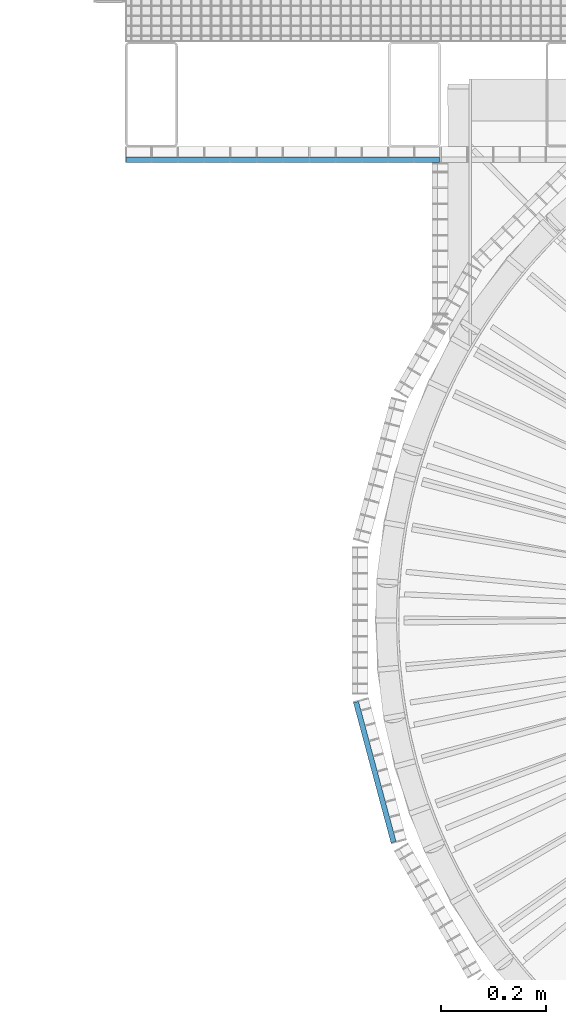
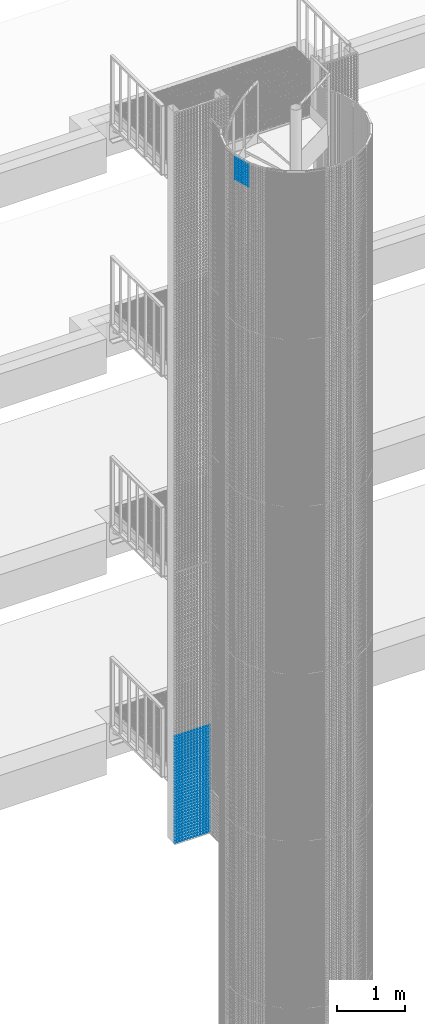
# One storey, part 323 of 1148: 53 beams, 40 elements without a shape of their own.
"""IFC2X3 building model written with IfcOpenShell, lengths in millimetres."""

from ifc_helpers import new_model, si_unit, frame, origin_with_axes, origin_2d_with_axis, place, context, subcontext, project, spatial, rectangle, extrude, material, type_object, element, aggregate, save


model = new_model("IFC2X3")

# Units and contexts
model_context = context("Model", 3, precision=1e-05, world=origin_with_axes())
body_context = subcontext(model_context, "Body", "Model", "MODEL_VIEW")
ifc_project = project(units=[si_unit("LENGTHUNIT", "METRE", prefix="MILLI"), si_unit("AREAUNIT", "SQUARE_METRE"), si_unit("VOLUMEUNIT", "CUBIC_METRE"), si_unit("MASSUNIT", "GRAM", prefix="KILO"), si_unit("TIMEUNIT", "SECOND"), si_unit("PLANEANGLEUNIT", "RADIAN"), si_unit("SOLIDANGLEUNIT", "STERADIAN"), si_unit("THERMODYNAMICTEMPERATUREUNIT", "DEGREE_CELSIUS"), si_unit("LUMINOUSINTENSITYUNIT", "LUMEN")], contexts=[model_context])

# Site, building, storey
site_placement = place(None, origin_with_axes())
site = spatial("IfcSite", under=ifc_project, at=site_placement, Name="Undefined", CompositionType="ELEMENT")
building_placement = place(site_placement, origin_with_axes())
building = spatial("IfcBuilding", under=site, at=building_placement, Name="Undefined", CompositionType="ELEMENT")
storey_placement = place(building_placement, origin_with_axes())
storey = spatial("IfcBuildingStorey", under=building, at=storey_placement, Name="Undefined", CompositionType="ELEMENT", Elevation=0.0)

# Assembly, beams
assembly_1_placement = place(storey_placement, origin_with_axes())
assembly_1 = element("IfcElementAssembly", 1, at=assembly_1_placement, inside=storey, Name="BORDURE", AssemblyPlace="NOTDEFINED", PredefinedType="NOTDEFINED")
ifc_material = material(Name="STEEL/S235JR")
beam_type = type_object("IfcBeamType", Name="PL2*10", PredefinedType="NOTDEFINED")
beam_1_placement = place(assembly_1_placement, frame((20560.1769047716, -421.483733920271, 17970.0), z_axis=(-0.965925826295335, -0.258819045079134, 0.0), x_axis=(-0.258819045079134, 0.965925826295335, 0.0)))
beam_1 = element("IfcBeam", 2, at=beam_1_placement, type_object=beam_type, material=ifc_material, Name="ENTRETOISE", context=body_context, shape_type="SweptSolid", body=[
    extrude(rectangle(XDim=2.0, YDim=10.0, at=origin_2d_with_axis()), frame((275.999999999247, 9.09494701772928e-13, 1.53210777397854e-14), z_axis=(-1.0, 0.0, 0.0), x_axis=(0.0, -1.0, 0.0)), (0.0, 0.0, 1.0), 276.0),
])
beam_2_placement = place(assembly_1_placement, frame((20560.1769047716, -421.483733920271, 17940.0), z_axis=(-0.965925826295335, -0.258819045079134, 0.0), x_axis=(-0.258819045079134, 0.965925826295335, 0.0)))
beam_2 = element("IfcBeam", 3, at=beam_2_placement, type_object=beam_type, material=ifc_material, Name="ENTRETOISE", context=body_context, shape_type="SweptSolid", body=[
    extrude(rectangle(XDim=2.0, YDim=10.0, at=origin_2d_with_axis()), frame((275.999999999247, 9.09494701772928e-13, 1.53210777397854e-14), z_axis=(-1.0, 0.0, 0.0), x_axis=(0.0, -1.0, 0.0)), (0.0, 0.0, 1.0), 276.0),
])
beam_3_placement = place(assembly_1_placement, frame((20560.1769047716, -421.483733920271, 17910.0), z_axis=(-0.965925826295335, -0.258819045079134, 0.0), x_axis=(-0.258819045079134, 0.965925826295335, 0.0)))
beam_3 = element("IfcBeam", 4, at=beam_3_placement, type_object=beam_type, material=ifc_material, Name="ENTRETOISE", context=body_context, shape_type="SweptSolid", body=[
    extrude(rectangle(XDim=2.0, YDim=10.0, at=origin_2d_with_axis()), frame((275.999999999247, 9.09494701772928e-13, 1.53210777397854e-14), z_axis=(-1.0, 0.0, 0.0), x_axis=(0.0, -1.0, 0.0)), (0.0, 0.0, 1.0), 276.0),
])
beam_4_placement = place(assembly_1_placement, frame((20560.1769047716, -421.483733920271, 17880.0), z_axis=(-0.965925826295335, -0.258819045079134, 0.0), x_axis=(-0.258819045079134, 0.965925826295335, 0.0)))
beam_4 = element("IfcBeam", 5, at=beam_4_placement, type_object=beam_type, material=ifc_material, Name="ENTRETOISE", context=body_context, shape_type="SweptSolid", body=[
    extrude(rectangle(XDim=2.0, YDim=10.0, at=origin_2d_with_axis()), frame((275.999999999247, 9.09494701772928e-13, 1.53210777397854e-14), z_axis=(-1.0, 0.0, 0.0), x_axis=(0.0, -1.0, 0.0)), (0.0, 0.0, 1.0), 276.0),
])
beam_5_placement = place(assembly_1_placement, frame((20560.1769047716, -421.483733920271, 17850.0), z_axis=(-0.965925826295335, -0.258819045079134, 0.0), x_axis=(-0.258819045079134, 0.965925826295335, 0.0)))
beam_5 = element("IfcBeam", 6, at=beam_5_placement, type_object=beam_type, material=ifc_material, Name="ENTRETOISE", context=body_context, shape_type="SweptSolid", body=[
    extrude(rectangle(XDim=2.0, YDim=10.0, at=origin_2d_with_axis()), frame((275.999999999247, 9.09494701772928e-13, 1.53210777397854e-14), z_axis=(-1.0, 0.0, 0.0), x_axis=(0.0, -1.0, 0.0)), (0.0, 0.0, 1.0), 276.0),
])
beam_6_placement = place(assembly_1_placement, frame((20560.1769047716, -421.483733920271, 17820.0), z_axis=(-0.965925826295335, -0.258819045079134, 0.0), x_axis=(-0.258819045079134, 0.965925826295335, 0.0)))
beam_6 = element("IfcBeam", 7, at=beam_6_placement, type_object=beam_type, material=ifc_material, Name="ENTRETOISE", context=body_context, shape_type="SweptSolid", body=[
    extrude(rectangle(XDim=2.0, YDim=10.0, at=origin_2d_with_axis()), frame((275.999999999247, 9.09494701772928e-13, 1.53210777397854e-14), z_axis=(-1.0, 0.0, 0.0), x_axis=(0.0, -1.0, 0.0)), (0.0, 0.0, 1.0), 276.0),
])
beam_7_placement = place(assembly_1_placement, frame((20560.1769047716, -421.483733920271, 17790.0), z_axis=(-0.965925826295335, -0.258819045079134, 0.0), x_axis=(-0.258819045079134, 0.965925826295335, 0.0)))
beam_7 = element("IfcBeam", 8, at=beam_7_placement, type_object=beam_type, material=ifc_material, Name="ENTRETOISE", context=body_context, shape_type="SweptSolid", body=[
    extrude(rectangle(XDim=2.0, YDim=10.0, at=origin_2d_with_axis()), frame((275.999999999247, 9.09494701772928e-13, 1.53210777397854e-14), z_axis=(-1.0, 0.0, 0.0), x_axis=(0.0, -1.0, 0.0)), (0.0, 0.0, 1.0), 276.0),
])
beam_8_placement = place(assembly_1_placement, frame((20560.1769047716, -421.483733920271, 17760.0), z_axis=(-0.965925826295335, -0.258819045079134, 0.0), x_axis=(-0.258819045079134, 0.965925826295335, 0.0)))
beam_8 = element("IfcBeam", 9, at=beam_8_placement, type_object=beam_type, material=ifc_material, Name="ENTRETOISE", context=body_context, shape_type="SweptSolid", body=[
    extrude(rectangle(XDim=2.0, YDim=10.0, at=origin_2d_with_axis()), frame((275.999999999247, 9.09494701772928e-13, 1.53210777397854e-14), z_axis=(-1.0, 0.0, 0.0), x_axis=(0.0, -1.0, 0.0)), (0.0, 0.0, 1.0), 276.0),
])
beam_9_placement = place(assembly_1_placement, frame((20560.1769047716, -421.48373392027, 17730.0), z_axis=(-0.965925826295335, -0.258819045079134, 0.0), x_axis=(-0.258819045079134, 0.965925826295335, 0.0)))
beam_9 = element("IfcBeam", 10, at=beam_9_placement, type_object=beam_type, material=ifc_material, Name="ENTRETOISE", context=body_context, shape_type="SweptSolid", body=[
    extrude(rectangle(XDim=2.0, YDim=10.0, at=origin_2d_with_axis()), frame((275.999999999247, 9.09494701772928e-13, 1.53210777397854e-14), z_axis=(-1.0, 0.0, 0.0), x_axis=(0.0, -1.0, 0.0)), (0.0, 0.0, 1.0), 276.0),
])
beam_10_placement = place(assembly_1_placement, frame((20560.1769047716, -421.48373392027, 17700.0), z_axis=(-0.965925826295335, -0.258819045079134, 0.0), x_axis=(-0.258819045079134, 0.965925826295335, 0.0)))
beam_10 = element("IfcBeam", 11, at=beam_10_placement, type_object=beam_type, material=ifc_material, Name="ENTRETOISE", context=body_context, shape_type="SweptSolid", body=[
    extrude(rectangle(XDim=2.0, YDim=10.0, at=origin_2d_with_axis()), frame((275.999999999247, 9.09494701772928e-13, 1.53210777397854e-14), z_axis=(-1.0, 0.0, 0.0), x_axis=(0.0, -1.0, 0.0)), (0.0, 0.0, 1.0), 276.0),
])
beam_11_placement = place(assembly_1_placement, frame((20560.1769047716, -421.48373392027, 17670.0), z_axis=(-0.965925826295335, -0.258819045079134, 0.0), x_axis=(-0.258819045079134, 0.965925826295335, 0.0)))
beam_11 = element("IfcBeam", 12, at=beam_11_placement, type_object=beam_type, material=ifc_material, Name="ENTRETOISE", context=body_context, shape_type="SweptSolid", body=[
    extrude(rectangle(XDim=2.0, YDim=10.0, at=origin_2d_with_axis()), frame((275.999999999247, 9.09494701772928e-13, 1.53210777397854e-14), z_axis=(-1.0, 0.0, 0.0), x_axis=(0.0, -1.0, 0.0)), (0.0, 0.0, 1.0), 276.0),
])
beam_12_placement = place(assembly_1_placement, frame((20560.1769047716, -421.48373392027, 17640.0), z_axis=(-0.965925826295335, -0.258819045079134, 0.0), x_axis=(-0.258819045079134, 0.965925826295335, 0.0)))
beam_12 = element("IfcBeam", 13, at=beam_12_placement, type_object=beam_type, material=ifc_material, Name="ENTRETOISE", context=body_context, shape_type="SweptSolid", body=[
    extrude(rectangle(XDim=2.0, YDim=10.0, at=origin_2d_with_axis()), frame((275.999999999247, 9.09494701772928e-13, 1.53210777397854e-14), z_axis=(-1.0, 0.0, 0.0), x_axis=(0.0, -1.0, 0.0)), (0.0, 0.0, 1.0), 276.0),
])
beam_13_placement = place(assembly_1_placement, frame((20560.1769047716, -421.48373392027, 17610.0), z_axis=(-0.965925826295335, -0.258819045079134, 0.0), x_axis=(-0.258819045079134, 0.965925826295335, 0.0)))
beam_13 = element("IfcBeam", 14, at=beam_13_placement, type_object=beam_type, material=ifc_material, Name="ENTRETOISE", context=body_context, shape_type="SweptSolid", body=[
    extrude(rectangle(XDim=2.0, YDim=10.0, at=origin_2d_with_axis()), frame((275.999999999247, 9.09494701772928e-13, 1.53210777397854e-14), z_axis=(-1.0, 0.0, 0.0), x_axis=(0.0, -1.0, 0.0)), (0.0, 0.0, 1.0), 276.0),
])
beam_14_placement = place(assembly_1_placement, frame((20560.1769047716, -421.48373392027, 17580.0), z_axis=(-0.965925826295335, -0.258819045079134, 0.0), x_axis=(-0.258819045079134, 0.965925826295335, 0.0)))
beam_14 = element("IfcBeam", 15, at=beam_14_placement, type_object=beam_type, material=ifc_material, Name="ENTRETOISE", context=body_context, shape_type="SweptSolid", body=[
    extrude(rectangle(XDim=2.0, YDim=10.0, at=origin_2d_with_axis()), frame((275.999999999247, 9.09494701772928e-13, 1.53210777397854e-14), z_axis=(-1.0, 0.0, 0.0), x_axis=(0.0, -1.0, 0.0)), (0.0, 0.0, 1.0), 276.0),
])
aggregate(assembly_1, [beam_1, beam_2, beam_3, beam_4, beam_5, beam_6, beam_7, beam_8, beam_9, beam_10, beam_11, beam_12, beam_13, beam_14])

# Assembly, beam
assembly_2_placement = place(storey_placement, origin_with_axes())
assembly_2 = element("IfcElementAssembly", 16, at=assembly_2_placement, inside=storey, AssemblyPlace="NOTDEFINED", PredefinedType="NOTDEFINED")
beam_15_placement = place(assembly_2_placement, frame((20647.930410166, 876.014689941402, 7104.998), z_axis=(0.0, -1.0, 0.0), x_axis=(-1.0, 0.0, 0.0)))
beam_15 = element("IfcBeam", 17, at=beam_15_placement, type_object=beam_type, material=ifc_material, Name="ENTRETOISE", context=body_context, shape_type="SweptSolid", body=[
    extrude(rectangle(XDim=2.0, YDim=10.0, at=origin_2d_with_axis()), frame((596.0, 0.0, 0.0), z_axis=(-1.0, 0.0, 0.0), x_axis=(0.0, -1.0, 0.0)), (0.0, 0.0, 1.0), 596.0),
])
aggregate(assembly_2, [beam_15])

assembly_3_placement = place(storey_placement, origin_with_axes())
assembly_3 = element("IfcElementAssembly", 18, at=assembly_3_placement, inside=storey, AssemblyPlace="NOTDEFINED", PredefinedType="NOTDEFINED")
beam_16_placement = place(assembly_3_placement, frame((20647.930410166, 876.014689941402, 7054.998), z_axis=(0.0, -1.0, 0.0), x_axis=(-1.0, 0.0, 0.0)))
beam_16 = element("IfcBeam", 19, at=beam_16_placement, type_object=beam_type, material=ifc_material, Name="ENTRETOISE", context=body_context, shape_type="SweptSolid", body=[
    extrude(rectangle(XDim=2.0, YDim=10.0, at=origin_2d_with_axis()), frame((596.0, 0.0, 0.0), z_axis=(-1.0, 0.0, 0.0), x_axis=(0.0, -1.0, 0.0)), (0.0, 0.0, 1.0), 596.0),
])
aggregate(assembly_3, [beam_16])

assembly_4_placement = place(storey_placement, origin_with_axes())
assembly_4 = element("IfcElementAssembly", 20, at=assembly_4_placement, inside=storey, AssemblyPlace="NOTDEFINED", PredefinedType="NOTDEFINED")
beam_17_placement = place(assembly_4_placement, frame((20647.930410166, 876.014689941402, 7004.998), z_axis=(0.0, -1.0, 0.0), x_axis=(-1.0, 0.0, 0.0)))
beam_17 = element("IfcBeam", 21, at=beam_17_placement, type_object=beam_type, material=ifc_material, Name="ENTRETOISE", context=body_context, shape_type="SweptSolid", body=[
    extrude(rectangle(XDim=2.0, YDim=10.0, at=origin_2d_with_axis()), frame((596.0, 0.0, 0.0), z_axis=(-1.0, 0.0, 0.0), x_axis=(0.0, -1.0, 0.0)), (0.0, 0.0, 1.0), 596.0),
])
aggregate(assembly_4, [beam_17])

assembly_5_placement = place(storey_placement, origin_with_axes())
assembly_5 = element("IfcElementAssembly", 22, at=assembly_5_placement, inside=storey, AssemblyPlace="NOTDEFINED", PredefinedType="NOTDEFINED")
beam_18_placement = place(assembly_5_placement, frame((20647.930410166, 876.014689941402, 6954.998), z_axis=(0.0, -1.0, 0.0), x_axis=(-1.0, 0.0, 0.0)))
beam_18 = element("IfcBeam", 23, at=beam_18_placement, type_object=beam_type, material=ifc_material, Name="ENTRETOISE", context=body_context, shape_type="SweptSolid", body=[
    extrude(rectangle(XDim=2.0, YDim=10.0, at=origin_2d_with_axis()), frame((596.0, 0.0, 0.0), z_axis=(-1.0, 0.0, 0.0), x_axis=(0.0, -1.0, 0.0)), (0.0, 0.0, 1.0), 596.0),
])
aggregate(assembly_5, [beam_18])

assembly_6_placement = place(storey_placement, origin_with_axes())
assembly_6 = element("IfcElementAssembly", 24, at=assembly_6_placement, inside=storey, AssemblyPlace="NOTDEFINED", PredefinedType="NOTDEFINED")
beam_19_placement = place(assembly_6_placement, frame((20647.930410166, 876.014689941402, 6904.998), z_axis=(0.0, -1.0, 0.0), x_axis=(-1.0, 0.0, 0.0)))
beam_19 = element("IfcBeam", 25, at=beam_19_placement, type_object=beam_type, material=ifc_material, Name="ENTRETOISE", context=body_context, shape_type="SweptSolid", body=[
    extrude(rectangle(XDim=2.0, YDim=10.0, at=origin_2d_with_axis()), frame((596.0, 0.0, 0.0), z_axis=(-1.0, 0.0, 0.0), x_axis=(0.0, -1.0, 0.0)), (0.0, 0.0, 1.0), 596.0),
])
aggregate(assembly_6, [beam_19])

assembly_7_placement = place(storey_placement, origin_with_axes())
assembly_7 = element("IfcElementAssembly", 26, at=assembly_7_placement, inside=storey, AssemblyPlace="NOTDEFINED", PredefinedType="NOTDEFINED")
beam_20_placement = place(assembly_7_placement, frame((20647.930410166, 876.014689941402, 6854.998), z_axis=(0.0, -1.0, 0.0), x_axis=(-1.0, 0.0, 0.0)))
beam_20 = element("IfcBeam", 27, at=beam_20_placement, type_object=beam_type, material=ifc_material, Name="ENTRETOISE", context=body_context, shape_type="SweptSolid", body=[
    extrude(rectangle(XDim=2.0, YDim=10.0, at=origin_2d_with_axis()), frame((596.0, 0.0, 0.0), z_axis=(-1.0, 0.0, 0.0), x_axis=(0.0, -1.0, 0.0)), (0.0, 0.0, 1.0), 596.0),
])
aggregate(assembly_7, [beam_20])

assembly_8_placement = place(storey_placement, origin_with_axes())
assembly_8 = element("IfcElementAssembly", 28, at=assembly_8_placement, inside=storey, AssemblyPlace="NOTDEFINED", PredefinedType="NOTDEFINED")
beam_21_placement = place(assembly_8_placement, frame((20647.930410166, 876.014689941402, 6804.998), z_axis=(0.0, -1.0, 0.0), x_axis=(-1.0, 0.0, 0.0)))
beam_21 = element("IfcBeam", 29, at=beam_21_placement, type_object=beam_type, material=ifc_material, Name="ENTRETOISE", context=body_context, shape_type="SweptSolid", body=[
    extrude(rectangle(XDim=2.0, YDim=10.0, at=origin_2d_with_axis()), frame((596.0, 0.0, 0.0), z_axis=(-1.0, 0.0, 0.0), x_axis=(0.0, -1.0, 0.0)), (0.0, 0.0, 1.0), 596.0),
])
aggregate(assembly_8, [beam_21])

assembly_9_placement = place(storey_placement, origin_with_axes())
assembly_9 = element("IfcElementAssembly", 30, at=assembly_9_placement, inside=storey, AssemblyPlace="NOTDEFINED", PredefinedType="NOTDEFINED")
beam_22_placement = place(assembly_9_placement, frame((20647.930410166, 876.014689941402, 6754.998), z_axis=(0.0, -1.0, 0.0), x_axis=(-1.0, 0.0, 0.0)))
beam_22 = element("IfcBeam", 31, at=beam_22_placement, type_object=beam_type, material=ifc_material, Name="ENTRETOISE", context=body_context, shape_type="SweptSolid", body=[
    extrude(rectangle(XDim=2.0, YDim=10.0, at=origin_2d_with_axis()), frame((596.0, 0.0, 0.0), z_axis=(-1.0, 0.0, 0.0), x_axis=(0.0, -1.0, 0.0)), (0.0, 0.0, 1.0), 596.0),
])
aggregate(assembly_9, [beam_22])

assembly_10_placement = place(storey_placement, origin_with_axes())
assembly_10 = element("IfcElementAssembly", 32, at=assembly_10_placement, inside=storey, AssemblyPlace="NOTDEFINED", PredefinedType="NOTDEFINED")
beam_23_placement = place(assembly_10_placement, frame((20647.930410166, 876.014689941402, 6704.998), z_axis=(0.0, -1.0, 0.0), x_axis=(-1.0, 0.0, 0.0)))
beam_23 = element("IfcBeam", 33, at=beam_23_placement, type_object=beam_type, material=ifc_material, Name="ENTRETOISE", context=body_context, shape_type="SweptSolid", body=[
    extrude(rectangle(XDim=2.0, YDim=10.0, at=origin_2d_with_axis()), frame((596.0, 0.0, 0.0), z_axis=(-1.0, 0.0, 0.0), x_axis=(0.0, -1.0, 0.0)), (0.0, 0.0, 1.0), 596.0),
])
aggregate(assembly_10, [beam_23])

assembly_11_placement = place(storey_placement, origin_with_axes())
assembly_11 = element("IfcElementAssembly", 34, at=assembly_11_placement, inside=storey, AssemblyPlace="NOTDEFINED", PredefinedType="NOTDEFINED")
beam_24_placement = place(assembly_11_placement, frame((20647.930410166, 876.014689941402, 6654.998), z_axis=(0.0, -1.0, 0.0), x_axis=(-1.0, 0.0, 0.0)))
beam_24 = element("IfcBeam", 35, at=beam_24_placement, type_object=beam_type, material=ifc_material, Name="ENTRETOISE", context=body_context, shape_type="SweptSolid", body=[
    extrude(rectangle(XDim=2.0, YDim=10.0, at=origin_2d_with_axis()), frame((596.0, 0.0, 0.0), z_axis=(-1.0, 0.0, 0.0), x_axis=(0.0, -1.0, 0.0)), (0.0, 0.0, 1.0), 596.0),
])
aggregate(assembly_11, [beam_24])

assembly_12_placement = place(storey_placement, origin_with_axes())
assembly_12 = element("IfcElementAssembly", 36, at=assembly_12_placement, inside=storey, AssemblyPlace="NOTDEFINED", PredefinedType="NOTDEFINED")
beam_25_placement = place(assembly_12_placement, frame((20647.930410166, 876.014689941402, 6604.998), z_axis=(0.0, -1.0, 0.0), x_axis=(-1.0, 0.0, 0.0)))
beam_25 = element("IfcBeam", 37, at=beam_25_placement, type_object=beam_type, material=ifc_material, Name="ENTRETOISE", context=body_context, shape_type="SweptSolid", body=[
    extrude(rectangle(XDim=2.0, YDim=10.0, at=origin_2d_with_axis()), frame((596.0, 0.0, 0.0), z_axis=(-1.0, 0.0, 0.0), x_axis=(0.0, -1.0, 0.0)), (0.0, 0.0, 1.0), 596.0),
])
aggregate(assembly_12, [beam_25])

assembly_13_placement = place(storey_placement, origin_with_axes())
assembly_13 = element("IfcElementAssembly", 38, at=assembly_13_placement, inside=storey, AssemblyPlace="NOTDEFINED", PredefinedType="NOTDEFINED")
beam_26_placement = place(assembly_13_placement, frame((20647.930410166, 876.014689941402, 6554.998), z_axis=(0.0, -1.0, 0.0), x_axis=(-1.0, 0.0, 0.0)))
beam_26 = element("IfcBeam", 39, at=beam_26_placement, type_object=beam_type, material=ifc_material, Name="ENTRETOISE", context=body_context, shape_type="SweptSolid", body=[
    extrude(rectangle(XDim=2.0, YDim=10.0, at=origin_2d_with_axis()), frame((596.0, 0.0, 0.0), z_axis=(-1.0, 0.0, 0.0), x_axis=(0.0, -1.0, 0.0)), (0.0, 0.0, 1.0), 596.0),
])
aggregate(assembly_13, [beam_26])

assembly_14_placement = place(storey_placement, origin_with_axes())
assembly_14 = element("IfcElementAssembly", 40, at=assembly_14_placement, inside=storey, AssemblyPlace="NOTDEFINED", PredefinedType="NOTDEFINED")
beam_27_placement = place(assembly_14_placement, frame((20647.930410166, 876.014689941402, 6504.998), z_axis=(0.0, -1.0, 0.0), x_axis=(-1.0, 0.0, 0.0)))
beam_27 = element("IfcBeam", 41, at=beam_27_placement, type_object=beam_type, material=ifc_material, Name="ENTRETOISE", context=body_context, shape_type="SweptSolid", body=[
    extrude(rectangle(XDim=2.0, YDim=10.0, at=origin_2d_with_axis()), frame((596.0, 0.0, 0.0), z_axis=(-1.0, 0.0, 0.0), x_axis=(0.0, -1.0, 0.0)), (0.0, 0.0, 1.0), 596.0),
])
aggregate(assembly_14, [beam_27])

assembly_15_placement = place(storey_placement, origin_with_axes())
assembly_15 = element("IfcElementAssembly", 42, at=assembly_15_placement, inside=storey, AssemblyPlace="NOTDEFINED", PredefinedType="NOTDEFINED")
beam_28_placement = place(assembly_15_placement, frame((20647.930410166, 876.014689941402, 6454.998), z_axis=(0.0, -1.0, 0.0), x_axis=(-1.0, 0.0, 0.0)))
beam_28 = element("IfcBeam", 43, at=beam_28_placement, type_object=beam_type, material=ifc_material, Name="ENTRETOISE", context=body_context, shape_type="SweptSolid", body=[
    extrude(rectangle(XDim=2.0, YDim=10.0, at=origin_2d_with_axis()), frame((596.0, 0.0, 0.0), z_axis=(-1.0, 0.0, 0.0), x_axis=(0.0, -1.0, 0.0)), (0.0, 0.0, 1.0), 596.0),
])
aggregate(assembly_15, [beam_28])

assembly_16_placement = place(storey_placement, origin_with_axes())
assembly_16 = element("IfcElementAssembly", 44, at=assembly_16_placement, inside=storey, AssemblyPlace="NOTDEFINED", PredefinedType="NOTDEFINED")
beam_29_placement = place(assembly_16_placement, frame((20647.930410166, 876.014689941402, 6404.998), z_axis=(0.0, -1.0, 0.0), x_axis=(-1.0, 0.0, 0.0)))
beam_29 = element("IfcBeam", 45, at=beam_29_placement, type_object=beam_type, material=ifc_material, Name="ENTRETOISE", context=body_context, shape_type="SweptSolid", body=[
    extrude(rectangle(XDim=2.0, YDim=10.0, at=origin_2d_with_axis()), frame((596.0, 0.0, 0.0), z_axis=(-1.0, 0.0, 0.0), x_axis=(0.0, -1.0, 0.0)), (0.0, 0.0, 1.0), 596.0),
])
aggregate(assembly_16, [beam_29])

assembly_17_placement = place(storey_placement, origin_with_axes())
assembly_17 = element("IfcElementAssembly", 46, at=assembly_17_placement, inside=storey, AssemblyPlace="NOTDEFINED", PredefinedType="NOTDEFINED")
beam_30_placement = place(assembly_17_placement, frame((20647.930410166, 876.014689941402, 6354.998), z_axis=(0.0, -1.0, 0.0), x_axis=(-1.0, 0.0, 0.0)))
beam_30 = element("IfcBeam", 47, at=beam_30_placement, type_object=beam_type, material=ifc_material, Name="ENTRETOISE", context=body_context, shape_type="SweptSolid", body=[
    extrude(rectangle(XDim=2.0, YDim=10.0, at=origin_2d_with_axis()), frame((596.0, 0.0, 0.0), z_axis=(-1.0, 0.0, 0.0), x_axis=(0.0, -1.0, 0.0)), (0.0, 0.0, 1.0), 596.0),
])
aggregate(assembly_17, [beam_30])

assembly_18_placement = place(storey_placement, origin_with_axes())
assembly_18 = element("IfcElementAssembly", 48, at=assembly_18_placement, inside=storey, AssemblyPlace="NOTDEFINED", PredefinedType="NOTDEFINED")
beam_31_placement = place(assembly_18_placement, frame((20647.930410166, 876.014689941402, 6304.998), z_axis=(0.0, -1.0, 0.0), x_axis=(-1.0, 0.0, 0.0)))
beam_31 = element("IfcBeam", 49, at=beam_31_placement, type_object=beam_type, material=ifc_material, Name="ENTRETOISE", context=body_context, shape_type="SweptSolid", body=[
    extrude(rectangle(XDim=2.0, YDim=10.0, at=origin_2d_with_axis()), frame((596.0, 0.0, 0.0), z_axis=(-1.0, 0.0, 0.0), x_axis=(0.0, -1.0, 0.0)), (0.0, 0.0, 1.0), 596.0),
])
aggregate(assembly_18, [beam_31])

assembly_19_placement = place(storey_placement, origin_with_axes())
assembly_19 = element("IfcElementAssembly", 50, at=assembly_19_placement, inside=storey, AssemblyPlace="NOTDEFINED", PredefinedType="NOTDEFINED")
beam_32_placement = place(assembly_19_placement, frame((20647.930410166, 876.014689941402, 6254.998), z_axis=(0.0, -1.0, 0.0), x_axis=(-1.0, 0.0, 0.0)))
beam_32 = element("IfcBeam", 51, at=beam_32_placement, type_object=beam_type, material=ifc_material, Name="ENTRETOISE", context=body_context, shape_type="SweptSolid", body=[
    extrude(rectangle(XDim=2.0, YDim=10.0, at=origin_2d_with_axis()), frame((596.0, 0.0, 0.0), z_axis=(-1.0, 0.0, 0.0), x_axis=(0.0, -1.0, 0.0)), (0.0, 0.0, 1.0), 596.0),
])
aggregate(assembly_19, [beam_32])

assembly_20_placement = place(storey_placement, origin_with_axes())
assembly_20 = element("IfcElementAssembly", 52, at=assembly_20_placement, inside=storey, AssemblyPlace="NOTDEFINED", PredefinedType="NOTDEFINED")
beam_33_placement = place(assembly_20_placement, frame((20647.930410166, 876.014689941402, 6204.998), z_axis=(0.0, -1.0, 0.0), x_axis=(-1.0, 0.0, 0.0)))
beam_33 = element("IfcBeam", 53, at=beam_33_placement, type_object=beam_type, material=ifc_material, Name="ENTRETOISE", context=body_context, shape_type="SweptSolid", body=[
    extrude(rectangle(XDim=2.0, YDim=10.0, at=origin_2d_with_axis()), frame((596.0, 0.0, 0.0), z_axis=(-1.0, 0.0, 0.0), x_axis=(0.0, -1.0, 0.0)), (0.0, 0.0, 1.0), 596.0),
])
aggregate(assembly_20, [beam_33])

assembly_21_placement = place(storey_placement, origin_with_axes())
assembly_21 = element("IfcElementAssembly", 54, at=assembly_21_placement, inside=storey, AssemblyPlace="NOTDEFINED", PredefinedType="NOTDEFINED")
beam_34_placement = place(assembly_21_placement, frame((20647.930410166, 876.014689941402, 6154.998), z_axis=(0.0, -1.0, 0.0), x_axis=(-1.0, 0.0, 0.0)))
beam_34 = element("IfcBeam", 55, at=beam_34_placement, type_object=beam_type, material=ifc_material, Name="ENTRETOISE", context=body_context, shape_type="SweptSolid", body=[
    extrude(rectangle(XDim=2.0, YDim=10.0, at=origin_2d_with_axis()), frame((596.0, 0.0, 0.0), z_axis=(-1.0, 0.0, 0.0), x_axis=(0.0, -1.0, 0.0)), (0.0, 0.0, 1.0), 596.0),
])
aggregate(assembly_21, [beam_34])

assembly_22_placement = place(storey_placement, origin_with_axes())
assembly_22 = element("IfcElementAssembly", 56, at=assembly_22_placement, inside=storey, AssemblyPlace="NOTDEFINED", PredefinedType="NOTDEFINED")
beam_35_placement = place(assembly_22_placement, frame((20647.930410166, 876.014689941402, 6104.998), z_axis=(0.0, -1.0, 0.0), x_axis=(-1.0, 0.0, 0.0)))
beam_35 = element("IfcBeam", 57, at=beam_35_placement, type_object=beam_type, material=ifc_material, Name="ENTRETOISE", context=body_context, shape_type="SweptSolid", body=[
    extrude(rectangle(XDim=2.0, YDim=10.0, at=origin_2d_with_axis()), frame((596.0, 0.0, 0.0), z_axis=(-1.0, 0.0, 0.0), x_axis=(0.0, -1.0, 0.0)), (0.0, 0.0, 1.0), 596.0),
])
aggregate(assembly_22, [beam_35])

assembly_23_placement = place(storey_placement, origin_with_axes())
assembly_23 = element("IfcElementAssembly", 58, at=assembly_23_placement, inside=storey, AssemblyPlace="NOTDEFINED", PredefinedType="NOTDEFINED")
beam_36_placement = place(assembly_23_placement, frame((20647.930410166, 876.014689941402, 6054.998), z_axis=(0.0, -1.0, 0.0), x_axis=(-1.0, 0.0, 0.0)))
beam_36 = element("IfcBeam", 59, at=beam_36_placement, type_object=beam_type, material=ifc_material, Name="ENTRETOISE", context=body_context, shape_type="SweptSolid", body=[
    extrude(rectangle(XDim=2.0, YDim=10.0, at=origin_2d_with_axis()), frame((596.0, 0.0, 0.0), z_axis=(-1.0, 0.0, 0.0), x_axis=(0.0, -1.0, 0.0)), (0.0, 0.0, 1.0), 596.0),
])
aggregate(assembly_23, [beam_36])

assembly_24_placement = place(storey_placement, origin_with_axes())
assembly_24 = element("IfcElementAssembly", 60, at=assembly_24_placement, inside=storey, AssemblyPlace="NOTDEFINED", PredefinedType="NOTDEFINED")
beam_37_placement = place(assembly_24_placement, frame((20647.930410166, 876.014689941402, 6004.998), z_axis=(0.0, -1.0, 0.0), x_axis=(-1.0, 0.0, 0.0)))
beam_37 = element("IfcBeam", 61, at=beam_37_placement, type_object=beam_type, material=ifc_material, Name="ENTRETOISE", context=body_context, shape_type="SweptSolid", body=[
    extrude(rectangle(XDim=2.0, YDim=10.0, at=origin_2d_with_axis()), frame((596.0, 0.0, 0.0), z_axis=(-1.0, 0.0, 0.0), x_axis=(0.0, -1.0, 0.0)), (0.0, 0.0, 1.0), 596.0),
])
aggregate(assembly_24, [beam_37])

assembly_25_placement = place(storey_placement, origin_with_axes())
assembly_25 = element("IfcElementAssembly", 62, at=assembly_25_placement, inside=storey, AssemblyPlace="NOTDEFINED", PredefinedType="NOTDEFINED")
beam_38_placement = place(assembly_25_placement, frame((20647.930410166, 876.014689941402, 5954.998), z_axis=(0.0, -1.0, 0.0), x_axis=(-1.0, 0.0, 0.0)))
beam_38 = element("IfcBeam", 63, at=beam_38_placement, type_object=beam_type, material=ifc_material, Name="ENTRETOISE", context=body_context, shape_type="SweptSolid", body=[
    extrude(rectangle(XDim=2.0, YDim=10.0, at=origin_2d_with_axis()), frame((596.0, 0.0, 0.0), z_axis=(-1.0, 0.0, 0.0), x_axis=(0.0, -1.0, 0.0)), (0.0, 0.0, 1.0), 596.0),
])
aggregate(assembly_25, [beam_38])

assembly_26_placement = place(storey_placement, origin_with_axes())
assembly_26 = element("IfcElementAssembly", 64, at=assembly_26_placement, inside=storey, AssemblyPlace="NOTDEFINED", PredefinedType="NOTDEFINED")
beam_39_placement = place(assembly_26_placement, frame((20647.930410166, 876.014689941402, 5904.998), z_axis=(0.0, -1.0, 0.0), x_axis=(-1.0, 0.0, 0.0)))
beam_39 = element("IfcBeam", 65, at=beam_39_placement, type_object=beam_type, material=ifc_material, Name="ENTRETOISE", context=body_context, shape_type="SweptSolid", body=[
    extrude(rectangle(XDim=2.0, YDim=10.0, at=origin_2d_with_axis()), frame((596.0, 0.0, 0.0), z_axis=(-1.0, 0.0, 0.0), x_axis=(0.0, -1.0, 0.0)), (0.0, 0.0, 1.0), 596.0),
])
aggregate(assembly_26, [beam_39])

assembly_27_placement = place(storey_placement, origin_with_axes())
assembly_27 = element("IfcElementAssembly", 66, at=assembly_27_placement, inside=storey, AssemblyPlace="NOTDEFINED", PredefinedType="NOTDEFINED")
beam_40_placement = place(assembly_27_placement, frame((20647.930410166, 876.014689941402, 5854.998), z_axis=(0.0, -1.0, 0.0), x_axis=(-1.0, 0.0, 0.0)))
beam_40 = element("IfcBeam", 67, at=beam_40_placement, type_object=beam_type, material=ifc_material, Name="ENTRETOISE", context=body_context, shape_type="SweptSolid", body=[
    extrude(rectangle(XDim=2.0, YDim=10.0, at=origin_2d_with_axis()), frame((596.0, 0.0, 0.0), z_axis=(-1.0, 0.0, 0.0), x_axis=(0.0, -1.0, 0.0)), (0.0, 0.0, 1.0), 596.0),
])
aggregate(assembly_27, [beam_40])

assembly_28_placement = place(storey_placement, origin_with_axes())
assembly_28 = element("IfcElementAssembly", 68, at=assembly_28_placement, inside=storey, AssemblyPlace="NOTDEFINED", PredefinedType="NOTDEFINED")
beam_41_placement = place(assembly_28_placement, frame((20647.930410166, 876.014689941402, 5804.998), z_axis=(0.0, -1.0, 0.0), x_axis=(-1.0, 0.0, 0.0)))
beam_41 = element("IfcBeam", 69, at=beam_41_placement, type_object=beam_type, material=ifc_material, Name="ENTRETOISE", context=body_context, shape_type="SweptSolid", body=[
    extrude(rectangle(XDim=2.0, YDim=10.0, at=origin_2d_with_axis()), frame((596.0, 0.0, 0.0), z_axis=(-1.0, 0.0, 0.0), x_axis=(0.0, -1.0, 0.0)), (0.0, 0.0, 1.0), 596.0),
])
aggregate(assembly_28, [beam_41])

assembly_29_placement = place(storey_placement, origin_with_axes())
assembly_29 = element("IfcElementAssembly", 70, at=assembly_29_placement, inside=storey, AssemblyPlace="NOTDEFINED", PredefinedType="NOTDEFINED")
beam_42_placement = place(assembly_29_placement, frame((20647.930410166, 876.014689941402, 5754.998), z_axis=(0.0, -1.0, 0.0), x_axis=(-1.0, 0.0, 0.0)))
beam_42 = element("IfcBeam", 71, at=beam_42_placement, type_object=beam_type, material=ifc_material, Name="ENTRETOISE", context=body_context, shape_type="SweptSolid", body=[
    extrude(rectangle(XDim=2.0, YDim=10.0, at=origin_2d_with_axis()), frame((596.0, 0.0, 0.0), z_axis=(-1.0, 0.0, 0.0), x_axis=(0.0, -1.0, 0.0)), (0.0, 0.0, 1.0), 596.0),
])
aggregate(assembly_29, [beam_42])

assembly_30_placement = place(storey_placement, origin_with_axes())
assembly_30 = element("IfcElementAssembly", 72, at=assembly_30_placement, inside=storey, AssemblyPlace="NOTDEFINED", PredefinedType="NOTDEFINED")
beam_43_placement = place(assembly_30_placement, frame((20647.930410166, 876.014689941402, 5704.998), z_axis=(0.0, -1.0, 0.0), x_axis=(-1.0, 0.0, 0.0)))
beam_43 = element("IfcBeam", 73, at=beam_43_placement, type_object=beam_type, material=ifc_material, Name="ENTRETOISE", context=body_context, shape_type="SweptSolid", body=[
    extrude(rectangle(XDim=2.0, YDim=10.0, at=origin_2d_with_axis()), frame((596.0, 0.0, 0.0), z_axis=(-1.0, 0.0, 0.0), x_axis=(0.0, -1.0, 0.0)), (0.0, 0.0, 1.0), 596.0),
])
aggregate(assembly_30, [beam_43])

assembly_31_placement = place(storey_placement, origin_with_axes())
assembly_31 = element("IfcElementAssembly", 74, at=assembly_31_placement, inside=storey, AssemblyPlace="NOTDEFINED", PredefinedType="NOTDEFINED")
beam_44_placement = place(assembly_31_placement, frame((20647.930410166, 876.014689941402, 5654.998), z_axis=(0.0, -1.0, 0.0), x_axis=(-1.0, 0.0, 0.0)))
beam_44 = element("IfcBeam", 75, at=beam_44_placement, type_object=beam_type, material=ifc_material, Name="ENTRETOISE", context=body_context, shape_type="SweptSolid", body=[
    extrude(rectangle(XDim=2.0, YDim=10.0, at=origin_2d_with_axis()), frame((596.0, 0.0, 0.0), z_axis=(-1.0, 0.0, 0.0), x_axis=(0.0, -1.0, 0.0)), (0.0, 0.0, 1.0), 596.0),
])
aggregate(assembly_31, [beam_44])

assembly_32_placement = place(storey_placement, origin_with_axes())
assembly_32 = element("IfcElementAssembly", 76, at=assembly_32_placement, inside=storey, AssemblyPlace="NOTDEFINED", PredefinedType="NOTDEFINED")
beam_45_placement = place(assembly_32_placement, frame((20647.930410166, 876.014689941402, 5604.998), z_axis=(0.0, -1.0, 0.0), x_axis=(-1.0, 0.0, 0.0)))
beam_45 = element("IfcBeam", 77, at=beam_45_placement, type_object=beam_type, material=ifc_material, Name="ENTRETOISE", context=body_context, shape_type="SweptSolid", body=[
    extrude(rectangle(XDim=2.0, YDim=10.0, at=origin_2d_with_axis()), frame((596.0, 0.0, 0.0), z_axis=(-1.0, 0.0, 0.0), x_axis=(0.0, -1.0, 0.0)), (0.0, 0.0, 1.0), 596.0),
])
aggregate(assembly_32, [beam_45])

assembly_33_placement = place(storey_placement, origin_with_axes())
assembly_33 = element("IfcElementAssembly", 78, at=assembly_33_placement, inside=storey, AssemblyPlace="NOTDEFINED", PredefinedType="NOTDEFINED")
beam_46_placement = place(assembly_33_placement, frame((20647.930410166, 876.014689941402, 5554.998), z_axis=(0.0, -1.0, 0.0), x_axis=(-1.0, 0.0, 0.0)))
beam_46 = element("IfcBeam", 79, at=beam_46_placement, type_object=beam_type, material=ifc_material, Name="ENTRETOISE", context=body_context, shape_type="SweptSolid", body=[
    extrude(rectangle(XDim=2.0, YDim=10.0, at=origin_2d_with_axis()), frame((596.0, 0.0, 0.0), z_axis=(-1.0, 0.0, 0.0), x_axis=(0.0, -1.0, 0.0)), (0.0, 0.0, 1.0), 596.0),
])
aggregate(assembly_33, [beam_46])

assembly_34_placement = place(storey_placement, origin_with_axes())
assembly_34 = element("IfcElementAssembly", 80, at=assembly_34_placement, inside=storey, AssemblyPlace="NOTDEFINED", PredefinedType="NOTDEFINED")
beam_47_placement = place(assembly_34_placement, frame((20647.930410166, 876.014689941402, 5504.998), z_axis=(0.0, -1.0, 0.0), x_axis=(-1.0, 0.0, 0.0)))
beam_47 = element("IfcBeam", 81, at=beam_47_placement, type_object=beam_type, material=ifc_material, Name="ENTRETOISE", context=body_context, shape_type="SweptSolid", body=[
    extrude(rectangle(XDim=2.0, YDim=10.0, at=origin_2d_with_axis()), frame((596.0, 0.0, 0.0), z_axis=(-1.0, 0.0, 0.0), x_axis=(0.0, -1.0, 0.0)), (0.0, 0.0, 1.0), 596.0),
])
aggregate(assembly_34, [beam_47])

assembly_35_placement = place(storey_placement, origin_with_axes())
assembly_35 = element("IfcElementAssembly", 82, at=assembly_35_placement, inside=storey, AssemblyPlace="NOTDEFINED", PredefinedType="NOTDEFINED")
beam_48_placement = place(assembly_35_placement, frame((20647.930410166, 876.014689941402, 5454.998), z_axis=(0.0, -1.0, 0.0), x_axis=(-1.0, 0.0, 0.0)))
beam_48 = element("IfcBeam", 83, at=beam_48_placement, type_object=beam_type, material=ifc_material, Name="ENTRETOISE", context=body_context, shape_type="SweptSolid", body=[
    extrude(rectangle(XDim=2.0, YDim=10.0, at=origin_2d_with_axis()), frame((596.0, 0.0, 0.0), z_axis=(-1.0, 0.0, 0.0), x_axis=(0.0, -1.0, 0.0)), (0.0, 0.0, 1.0), 596.0),
])
aggregate(assembly_35, [beam_48])

assembly_36_placement = place(storey_placement, origin_with_axes())
assembly_36 = element("IfcElementAssembly", 84, at=assembly_36_placement, inside=storey, AssemblyPlace="NOTDEFINED", PredefinedType="NOTDEFINED")
beam_49_placement = place(assembly_36_placement, frame((20647.930410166, 876.014689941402, 5404.998), z_axis=(0.0, -1.0, 0.0), x_axis=(-1.0, 0.0, 0.0)))
beam_49 = element("IfcBeam", 85, at=beam_49_placement, type_object=beam_type, material=ifc_material, Name="ENTRETOISE", context=body_context, shape_type="SweptSolid", body=[
    extrude(rectangle(XDim=2.0, YDim=10.0, at=origin_2d_with_axis()), frame((596.0, 0.0, 0.0), z_axis=(-1.0, 0.0, 0.0), x_axis=(0.0, -1.0, 0.0)), (0.0, 0.0, 1.0), 596.0),
])
aggregate(assembly_36, [beam_49])

assembly_37_placement = place(storey_placement, origin_with_axes())
assembly_37 = element("IfcElementAssembly", 86, at=assembly_37_placement, inside=storey, AssemblyPlace="NOTDEFINED", PredefinedType="NOTDEFINED")
beam_50_placement = place(assembly_37_placement, frame((20647.930410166, 876.014689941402, 5354.998), z_axis=(0.0, -1.0, 0.0), x_axis=(-1.0, 0.0, 0.0)))
beam_50 = element("IfcBeam", 87, at=beam_50_placement, type_object=beam_type, material=ifc_material, Name="ENTRETOISE", context=body_context, shape_type="SweptSolid", body=[
    extrude(rectangle(XDim=2.0, YDim=10.0, at=origin_2d_with_axis()), frame((596.0, 0.0, 0.0), z_axis=(-1.0, 0.0, 0.0), x_axis=(0.0, -1.0, 0.0)), (0.0, 0.0, 1.0), 596.0),
])
aggregate(assembly_37, [beam_50])

assembly_38_placement = place(storey_placement, origin_with_axes())
assembly_38 = element("IfcElementAssembly", 88, at=assembly_38_placement, inside=storey, AssemblyPlace="NOTDEFINED", PredefinedType="NOTDEFINED")
beam_51_placement = place(assembly_38_placement, frame((20647.930410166, 876.014689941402, 5304.998), z_axis=(0.0, -1.0, 0.0), x_axis=(-1.0, 0.0, 0.0)))
beam_51 = element("IfcBeam", 89, at=beam_51_placement, type_object=beam_type, material=ifc_material, Name="ENTRETOISE", context=body_context, shape_type="SweptSolid", body=[
    extrude(rectangle(XDim=2.0, YDim=10.0, at=origin_2d_with_axis()), frame((596.0, 0.0, 0.0), z_axis=(-1.0, 0.0, 0.0), x_axis=(0.0, -1.0, 0.0)), (0.0, 0.0, 1.0), 596.0),
])
aggregate(assembly_38, [beam_51])

assembly_39_placement = place(storey_placement, origin_with_axes())
assembly_39 = element("IfcElementAssembly", 90, at=assembly_39_placement, inside=storey, AssemblyPlace="NOTDEFINED", PredefinedType="NOTDEFINED")
beam_52_placement = place(assembly_39_placement, frame((20647.930410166, 876.014689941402, 5254.998), z_axis=(0.0, -1.0, 0.0), x_axis=(-1.0, 0.0, 0.0)))
beam_52 = element("IfcBeam", 91, at=beam_52_placement, type_object=beam_type, material=ifc_material, Name="ENTRETOISE", context=body_context, shape_type="SweptSolid", body=[
    extrude(rectangle(XDim=2.0, YDim=10.0, at=origin_2d_with_axis()), frame((596.0, 0.0, 0.0), z_axis=(-1.0, 0.0, 0.0), x_axis=(0.0, -1.0, 0.0)), (0.0, 0.0, 1.0), 596.0),
])
aggregate(assembly_39, [beam_52])

assembly_40_placement = place(storey_placement, origin_with_axes())
assembly_40 = element("IfcElementAssembly", 92, at=assembly_40_placement, inside=storey, Name="BORDURE", AssemblyPlace="NOTDEFINED", PredefinedType="NOTDEFINED")
beam_53_placement = place(assembly_40_placement, frame((20647.930410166, 876.014689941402, 5204.998), z_axis=(0.0, -1.0, 0.0), x_axis=(-1.0, 0.0, 0.0)))
beam_53 = element("IfcBeam", 93, at=beam_53_placement, type_object=beam_type, material=ifc_material, Name="ENTRETOISE", context=body_context, shape_type="SweptSolid", body=[
    extrude(rectangle(XDim=2.0, YDim=10.0, at=origin_2d_with_axis()), frame((596.0, 0.0, 0.0), z_axis=(-1.0, 0.0, 0.0), x_axis=(0.0, -1.0, 0.0)), (0.0, 0.0, 1.0), 596.0),
])
aggregate(assembly_40, [beam_53])

save(model, "model.ifc")
